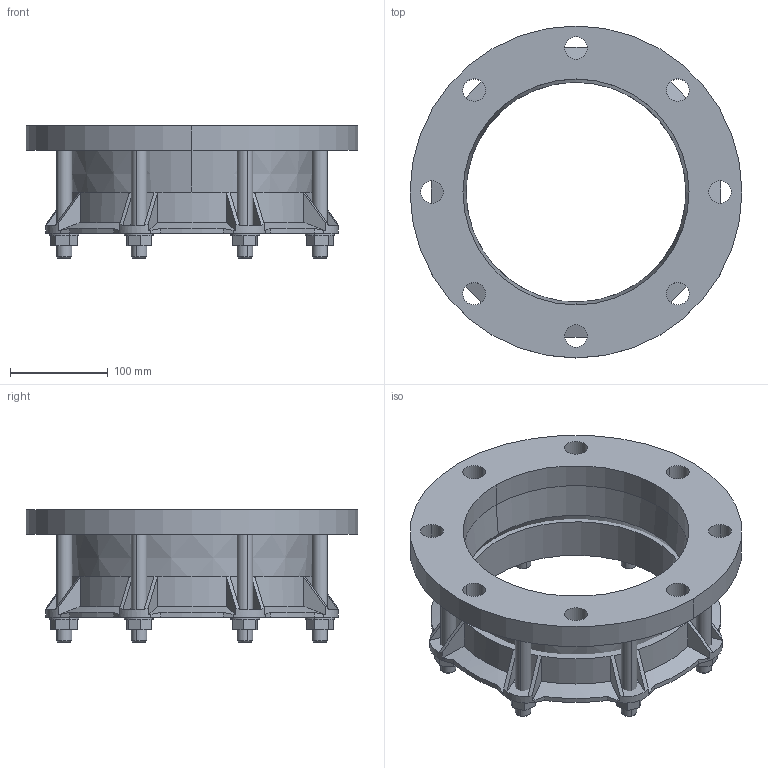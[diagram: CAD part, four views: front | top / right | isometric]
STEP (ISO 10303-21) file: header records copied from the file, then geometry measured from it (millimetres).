
FILE_DESCRIPTION((''),'2;1');
FILE_NAME('FLEXLOCK_222_PN10_ASM','2020-08-03T',('MReader'),(''),'CREO PARAMETRIC BY PTC INC, 2016130','CREO PARAMETRIC BY PTC INC, 2016130','');
FILE_SCHEMA(('CONFIG_CONTROL_DESIGN'));
Length unit declared in the file: millimetre
Products named in the file (3): FLEXLOCK_ADAPTOR_222_PN10_6358; FLEXLOCK_ENDRING_222_PN10; FLEXLOCK_222_PN10_ASM
Assembly tree (2 placements, depth 2):
  FLEXLOCK_222_PN10_ASM
    FLEXLOCK_ADAPTOR_222_PN10_6358
    FLEXLOCK_ENDRING_222_PN10
Bounding box: 340 x 340 x 135.35 mm (x, y, z)
Volume: 2501826.4 mm3; surface area: 410337.9 mm2
Topology: 2 solids, 2 shells, 273 faces, 680 edges, 436 vertices
Faces by surface type: plane 133, cylinder 70, cone 70
Entity records: 8482 total; most frequent: CARTESIAN_POINT 1922, ORIENTED_EDGE 1360, DIRECTION 1328, EDGE_CURVE 680, AXIS2_PLACEMENT_3D 514, VERTEX_POINT 436, EDGE_LOOP 318, VECTOR 300
